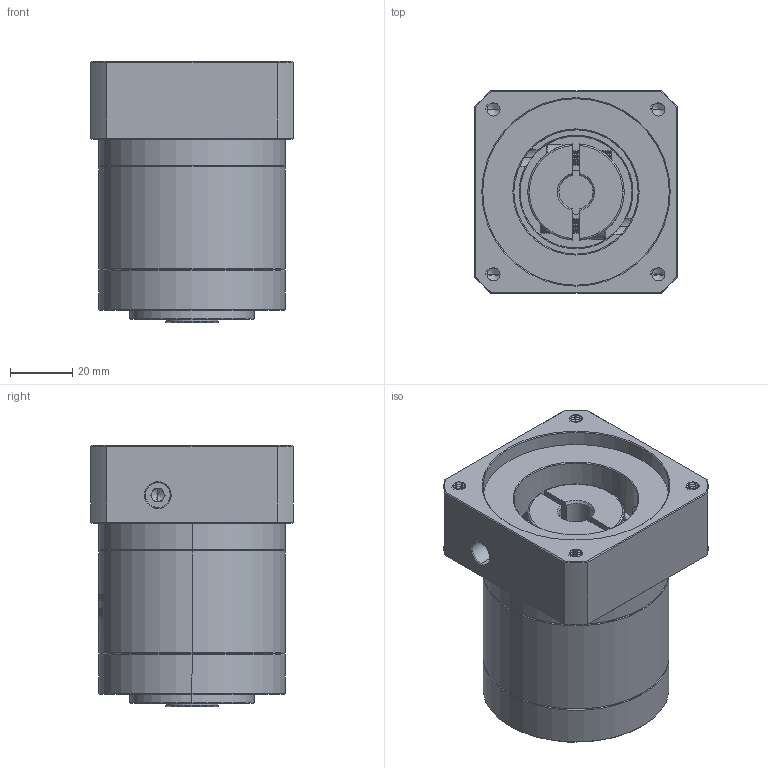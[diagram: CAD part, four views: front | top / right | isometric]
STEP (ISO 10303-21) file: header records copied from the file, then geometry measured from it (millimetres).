
FILE_DESCRIPTION (( 'STEP AP214' ), '1' );
FILE_NAME ('ZE60-K10-L1-11-60-75-M5.STEP', '2022-04-17T15:25:22', ( '' ), ( 'Microsoft' ), 'SwSTEP 2.0', 'SolidWorks 2016', '' );
FILE_SCHEMA (( 'AUTOMOTIVE_DESIGN' ));
Length unit declared in the file: millimetre
Products named in the file (1): ZE60-K10-L1-11-60-75-M5
Bounding box: 65 x 65 x 84 mm (x, y, z)
Volume: 219534.6 mm3; surface area: 44395.4 mm2
Topology: 6 solids, 6 shells, 1678 faces, 4567 edges, 2961 vertices
Faces by surface type: plane 730, cylinder 412, bspline 304, cone 214, torus 18
Entity records: 99069 total; most frequent: CARTESIAN_POINT 42456, ORIENTED_EDGE 9094, DIRECTION 6521, EDGE_CURVE 4547, VERTEX_POINT 2961, LINE 2303, VECTOR 2303, AXIS2_PLACEMENT_3D 2109
